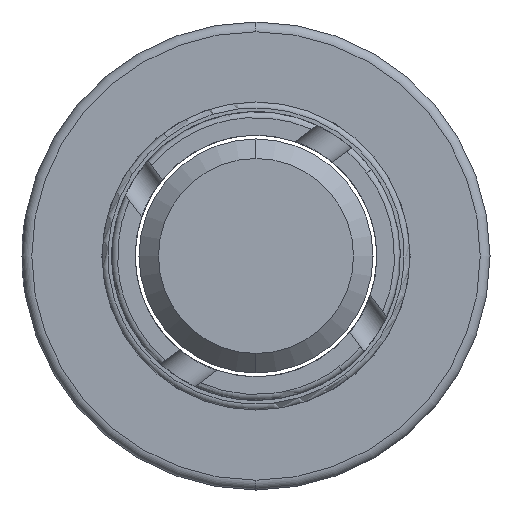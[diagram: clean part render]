
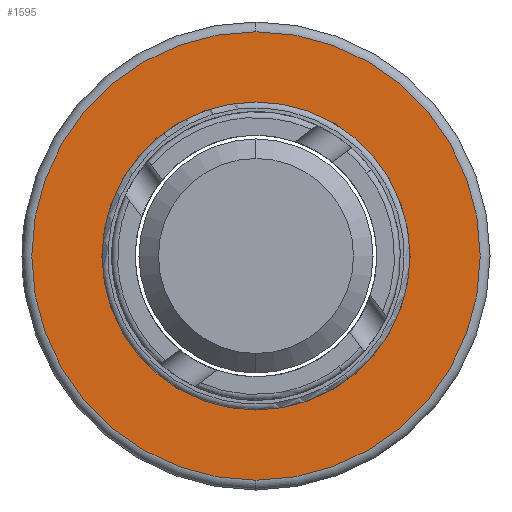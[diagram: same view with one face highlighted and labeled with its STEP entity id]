
A CAD part, left-side view. The second image highlights one B-rep face of the part: STEP entity #1595.
In plain terms, the highlighted planar face has unit normal (-1, 0, 0).
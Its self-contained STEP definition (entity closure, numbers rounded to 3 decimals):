
#18 = EDGE_CURVE ( 'NONE', #2592, #62, #276, .T. ) ;
#62 = VERTEX_POINT ( 'NONE', #1992 ) ;
#66 = EDGE_CURVE ( 'NONE', #62, #2592, #2620, .T. ) ;
#77 = DIRECTION ( 'NONE',  ( 0., 0., -1. ) ) ;
#262 = AXIS2_PLACEMENT_3D ( 'NONE', #3130, #1695, #77 ) ;
#276 = CIRCLE ( 'NONE', #3264, 11.5 ) ;
#341 = AXIS2_PLACEMENT_3D ( 'NONE', #1894, #3285, #1401 ) ;
#720 = CARTESIAN_POINT ( 'NONE',  ( 0., 0., 7.9 ) ) ;
#721 = EDGE_CURVE ( 'NONE', #1956, #2101, #2089, .T. ) ;
#901 = CARTESIAN_POINT ( 'NONE',  ( 0., 0., -7.9 ) ) ;
#1069 = DIRECTION ( 'NONE',  ( 0., 0., 1. ) ) ;
#1353 = EDGE_LOOP ( 'NONE', ( #3068, #1634 ) ) ;
#1401 = DIRECTION ( 'NONE',  ( 0., 0., 1. ) ) ;
#1435 = DIRECTION ( 'NONE',  ( 0., 0., -1. ) ) ;
#1577 = ORIENTED_EDGE ( 'NONE', *, *, #18, .T. ) ;
#1586 = EDGE_CURVE ( 'NONE', #2101, #1956, #2461, .T. ) ;
#1595 = ADVANCED_FACE ( 'NONE', ( #2417, #2827 ), #2147, .F. ) ;
#1634 = ORIENTED_EDGE ( 'NONE', *, *, #721, .F. ) ;
#1695 = DIRECTION ( 'NONE',  ( -1., 0., 0. ) ) ;
#1750 = DIRECTION ( 'NONE',  ( -1., 0., 0. ) ) ;
#1894 = CARTESIAN_POINT ( 'NONE',  ( 0., 0., 0. ) ) ;
#1895 = CARTESIAN_POINT ( 'NONE',  ( 0., 0., 0. ) ) ;
#1956 = VERTEX_POINT ( 'NONE', #901 ) ;
#1992 = CARTESIAN_POINT ( 'NONE',  ( 0., 0., 11.5 ) ) ;
#2089 = CIRCLE ( 'NONE', #3321, 7.9 ) ;
#2101 = VERTEX_POINT ( 'NONE', #720 ) ;
#2147 = PLANE ( 'NONE',  #3271 ) ;
#2193 = CARTESIAN_POINT ( 'NONE',  ( 0., 0., 0. ) ) ;
#2417 = FACE_BOUND ( 'NONE', #1353, .T. ) ;
#2461 = CIRCLE ( 'NONE', #341, 7.9 ) ;
#2539 = CARTESIAN_POINT ( 'NONE',  ( 0., 0., 0. ) ) ;
#2592 = VERTEX_POINT ( 'NONE', #3519 ) ;
#2620 = CIRCLE ( 'NONE', #262, 11.5 ) ;
#2707 = DIRECTION ( 'NONE',  ( 1., 0., 0. ) ) ;
#2827 = FACE_OUTER_BOUND ( 'NONE', #3049, .T. ) ;
#2994 = DIRECTION ( 'NONE',  ( -1., 0., 0. ) ) ;
#3049 = EDGE_LOOP ( 'NONE', ( #1577, #3320 ) ) ;
#3068 = ORIENTED_EDGE ( 'NONE', *, *, #1586, .F. ) ;
#3130 = CARTESIAN_POINT ( 'NONE',  ( 0., 0., 0. ) ) ;
#3264 = AXIS2_PLACEMENT_3D ( 'NONE', #2539, #1750, #1435 ) ;
#3271 = AXIS2_PLACEMENT_3D ( 'NONE', #2193, #2707, #3327 ) ;
#3285 = DIRECTION ( 'NONE',  ( -1., 0., 0. ) ) ;
#3320 = ORIENTED_EDGE ( 'NONE', *, *, #66, .T. ) ;
#3321 = AXIS2_PLACEMENT_3D ( 'NONE', #1895, #2994, #1069 ) ;
#3327 = DIRECTION ( 'NONE',  ( 0., 0., -1. ) ) ;
#3519 = CARTESIAN_POINT ( 'NONE',  ( 0., 0., -11.5 ) ) ;
